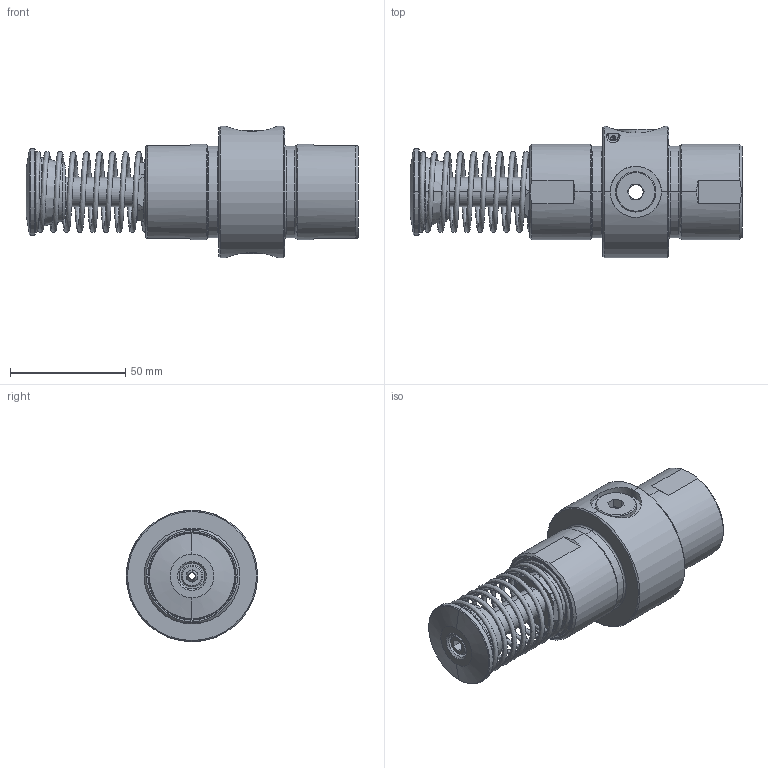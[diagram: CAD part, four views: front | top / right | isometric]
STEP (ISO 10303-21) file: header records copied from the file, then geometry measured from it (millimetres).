
FILE_DESCRIPTION (( 'STEP AP203' ), '1' );
FILE_NAME ('OEMXT 1.5M X 1.STEP', '2009-03-25T15:47:03', ( ' ' ), ( '' ), 'SwSTEP 2.0', 'SolidWorks 2006233', '' );
FILE_SCHEMA (( 'CONFIG_CONTROL_DESIGN' ));
Length unit declared in the file: inch
Products named in the file (1): OEMXT 1.5M X 1
Bounding box: 144.25 x 57.02 x 57.02 mm (x, y, z)
Surface area: 35446.8 mm2 (no closed solid volume)
Topology: 0 solids, 30 shells, 248 faces, 946 edges, 726 vertices
Faces by surface type: plane 107, cylinder 65, cone 54, torus 13, bspline 9
Entity records: 17530 total; most frequent: CARTESIAN_POINT 10042, ORIENTED_EDGE 1426, DIRECTION 1372, EDGE_CURVE 944, VERTEX_POINT 726, AXIS2_PLACEMENT_3D 472, VECTOR 428, LINE 428
